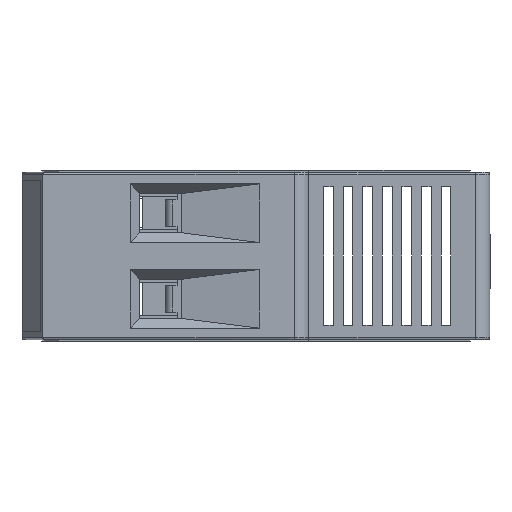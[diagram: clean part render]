
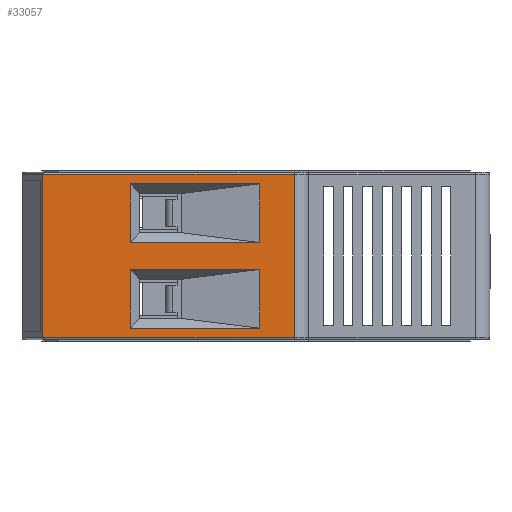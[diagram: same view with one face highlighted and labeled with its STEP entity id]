
A CAD part, front view. The second image highlights one B-rep face of the part: STEP entity #33057.
In plain terms, the highlighted planar face has unit normal (0, -1, 0).
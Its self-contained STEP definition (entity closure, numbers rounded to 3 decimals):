
#8760=ORIENTED_EDGE('',*,*,#13895,.T.);
#8761=ORIENTED_EDGE('',*,*,#13896,.T.);
#8762=ORIENTED_EDGE('',*,*,#13871,.F.);
#8763=ORIENTED_EDGE('',*,*,#13897,.F.);
#8764=ORIENTED_EDGE('',*,*,#13888,.T.);
#8765=ORIENTED_EDGE('',*,*,#13898,.T.);
#8766=ORIENTED_EDGE('',*,*,#13894,.T.);
#8767=ORIENTED_EDGE('',*,*,#13899,.F.);
#8768=ORIENTED_EDGE('',*,*,#13876,.T.);
#8769=ORIENTED_EDGE('',*,*,#13881,.T.);
#8770=ORIENTED_EDGE('',*,*,#13882,.F.);
#8771=ORIENTED_EDGE('',*,*,#13886,.F.);
#13871=EDGE_CURVE('',#17547,#17548,#21968,.T.);
#13876=EDGE_CURVE('',#17553,#17551,#21971,.T.);
#13881=EDGE_CURVE('',#17551,#17556,#21976,.T.);
#13882=EDGE_CURVE('',#17557,#17556,#21977,.T.);
#13886=EDGE_CURVE('',#17553,#17557,#21981,.T.);
#13888=EDGE_CURVE('',#17561,#17559,#21983,.T.);
#13894=EDGE_CURVE('',#17564,#17566,#21989,.T.);
#13895=EDGE_CURVE('',#17567,#17568,#21990,.T.);
#13896=EDGE_CURVE('',#17568,#17548,#21991,.T.);
#13897=EDGE_CURVE('',#17567,#17547,#21992,.T.);
#13898=EDGE_CURVE('',#17559,#17564,#21993,.T.);
#13899=EDGE_CURVE('',#17561,#17566,#21994,.T.);
#17547=VERTEX_POINT('',#54602);
#17548=VERTEX_POINT('',#54603);
#17551=VERTEX_POINT('',#54611);
#17553=VERTEX_POINT('',#54614);
#17556=VERTEX_POINT('',#54622);
#17557=VERTEX_POINT('',#54626);
#17559=VERTEX_POINT('',#54635);
#17561=VERTEX_POINT('',#54638);
#17564=VERTEX_POINT('',#54645);
#17566=VERTEX_POINT('',#54649);
#17567=VERTEX_POINT('',#54653);
#17568=VERTEX_POINT('',#54654);
#21968=LINE('',#54601,#26460);
#21971=LINE('',#54613,#26463);
#21976=LINE('',#54623,#26468);
#21977=LINE('',#54625,#26469);
#21981=LINE('',#54632,#26473);
#21983=LINE('',#54637,#26475);
#21989=LINE('',#54650,#26481);
#21990=LINE('',#54652,#26482);
#21991=LINE('',#54655,#26483);
#21992=LINE('',#54656,#26484);
#21993=LINE('',#54657,#26485);
#21994=LINE('',#54658,#26486);
#26460=VECTOR('',#43912,1000.);
#26463=VECTOR('',#43921,1000.);
#26468=VECTOR('',#43928,1000.);
#26469=VECTOR('',#43931,1000.);
#26473=VECTOR('',#43937,1000.);
#26475=VECTOR('',#43941,1000.);
#26481=VECTOR('',#43949,1000.);
#26482=VECTOR('',#43952,1000.);
#26483=VECTOR('',#43953,1000.);
#26484=VECTOR('',#43954,1000.);
#26485=VECTOR('',#43955,1000.);
#26486=VECTOR('',#43956,1000.);
#28410=EDGE_LOOP('',(#8760,#8761,#8762,#8763));
#28411=EDGE_LOOP('',(#8764,#8765,#8766,#8767));
#28412=EDGE_LOOP('',(#8768,#8769,#8770,#8771));
#30127=FACE_BOUND('',#28410,.T.);
#30128=FACE_BOUND('',#28411,.T.);
#30129=FACE_BOUND('',#28412,.T.);
#31507=PLANE('',#35957);
#33057=ADVANCED_FACE('',(#30127,#30128,#30129),#31507,.F.);
#35957=AXIS2_PLACEMENT_3D('',#54651,#43950,#43951);
#43912=DIRECTION('',(0.,0.,-1.));
#43921=DIRECTION('',(1.,0.,0.));
#43928=DIRECTION('',(0.,0.,-1.));
#43931=DIRECTION('',(1.,0.,0.));
#43937=DIRECTION('',(0.,0.,-1.));
#43941=DIRECTION('',(1.,0.,0.));
#43949=DIRECTION('',(-1.,0.,0.));
#43950=DIRECTION('',(0.,1.,0.));
#43951=DIRECTION('',(0.,0.,-1.));
#43952=DIRECTION('',(0.,0.,-1.));
#43953=DIRECTION('',(1.,0.,0.));
#43954=DIRECTION('',(1.,0.,0.));
#43955=DIRECTION('',(0.,0.,-1.));
#43956=DIRECTION('',(0.,0.,-1.));
#54601=CARTESIAN_POINT('',(29.95,-42.644,20.276));
#54602=CARTESIAN_POINT('',(29.95,-42.644,20.276));
#54603=CARTESIAN_POINT('',(29.95,-42.644,3.576));
#54611=CARTESIAN_POINT('',(26.45,-42.644,19.301));
#54613=CARTESIAN_POINT('',(4.255,-42.644,19.301));
#54614=CARTESIAN_POINT('',(13.25,-42.644,19.301));
#54622=CARTESIAN_POINT('',(26.45,-42.644,13.301));
#54623=CARTESIAN_POINT('',(26.45,-42.644,19.301));
#54625=CARTESIAN_POINT('',(4.255,-42.644,13.301));
#54626=CARTESIAN_POINT('',(13.25,-42.644,13.301));
#54632=CARTESIAN_POINT('',(13.25,-42.644,20.287));
#54635=CARTESIAN_POINT('',(26.45,-42.644,10.551));
#54637=CARTESIAN_POINT('',(4.255,-42.644,10.551));
#54638=CARTESIAN_POINT('',(13.25,-42.644,10.551));
#54645=CARTESIAN_POINT('',(26.45,-42.644,4.551));
#54649=CARTESIAN_POINT('',(13.25,-42.644,4.551));
#54650=CARTESIAN_POINT('',(4.255,-42.644,4.551));
#54651=CARTESIAN_POINT('',(4.255,-42.644,20.287));
#54652=CARTESIAN_POINT('',(4.266,-42.644,20.276));
#54653=CARTESIAN_POINT('',(4.266,-42.644,20.276));
#54654=CARTESIAN_POINT('',(4.266,-42.644,3.576));
#54655=CARTESIAN_POINT('',(4.266,-42.644,3.576));
#54656=CARTESIAN_POINT('',(4.266,-42.644,20.276));
#54657=CARTESIAN_POINT('',(26.45,-42.644,10.551));
#54658=CARTESIAN_POINT('',(13.25,-42.644,20.287));
